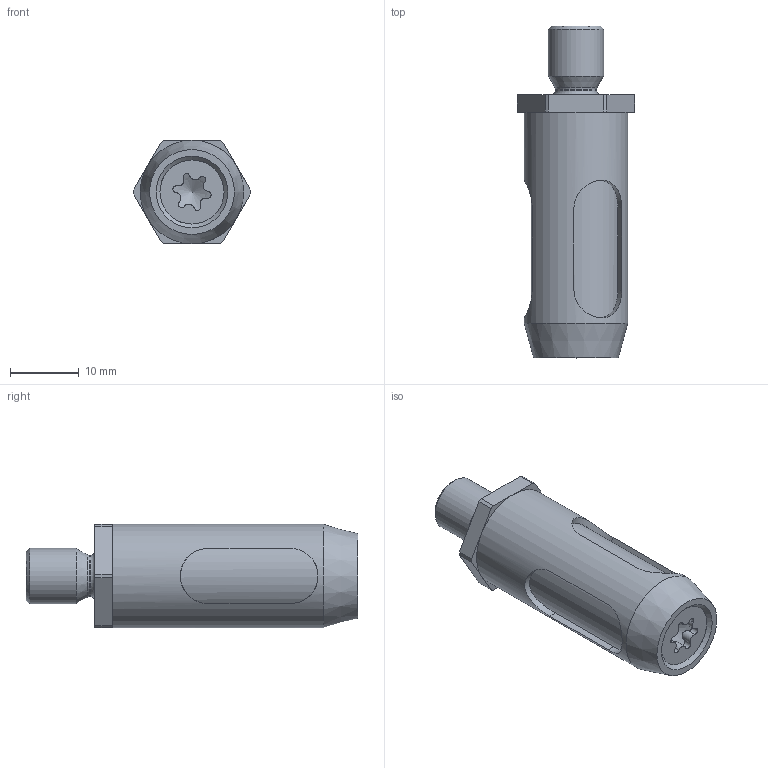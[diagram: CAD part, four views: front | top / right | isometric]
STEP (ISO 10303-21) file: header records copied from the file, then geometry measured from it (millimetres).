
FILE_DESCRIPTION(/* description */ (''),/* implementation_level */ '2;1');
FILE_NAME(/* name */ '\\dc01\daten\CAD\Standard\Daten\3D-Datenbank\GI\GIS\4 - 3D-CAD-Daten GIS 004-020\G-GIS015\G-GIS015_Rev.1.02.stp',/* time_stamp */ '2022-11-29T15:59:26+01:00',/* author */ ('ysplieth'),/* organization */ (''),/* preprocessor_version */ 'ST-DEVELOPER v17',/* originating_system */ 'Autodesk Inventor 2018',/* authorisation */ '');
FILE_SCHEMA (('AUTOMOTIVE_DESIGN { 1 0 10303 214 3 1 1 }'));
Length unit declared in the file: millimetre
Products named in the file (1): Bauteil13
Bounding box: 17 x 48.2 x 15 mm (x, y, z)
Volume: 5854.3 mm3; surface area: 6686.9 mm2
Topology: 1 solids, 2 shells, 83 faces, 234 edges, 158 vertices
Faces by surface type: cylinder 39, plane 28, cone 13, torus 3
Full cylindrical faces by diameter (mm): 4 x2, 4.134 x2, 5 x1, 5.5 x1, 6 x1, 8 x1, 9.3 x1, 10.8 x1, 11 x1, 13 x2, 13.1 x1, 15 x1
Entity records: 3383 total; most frequent: CARTESIAN_POINT 1070, ORIENTED_EDGE 462, DIRECTION 459, EDGE_CURVE 231, AXIS2_PLACEMENT_3D 181, VERTEX_POINT 158, EDGE_LOOP 99, LINE 97
